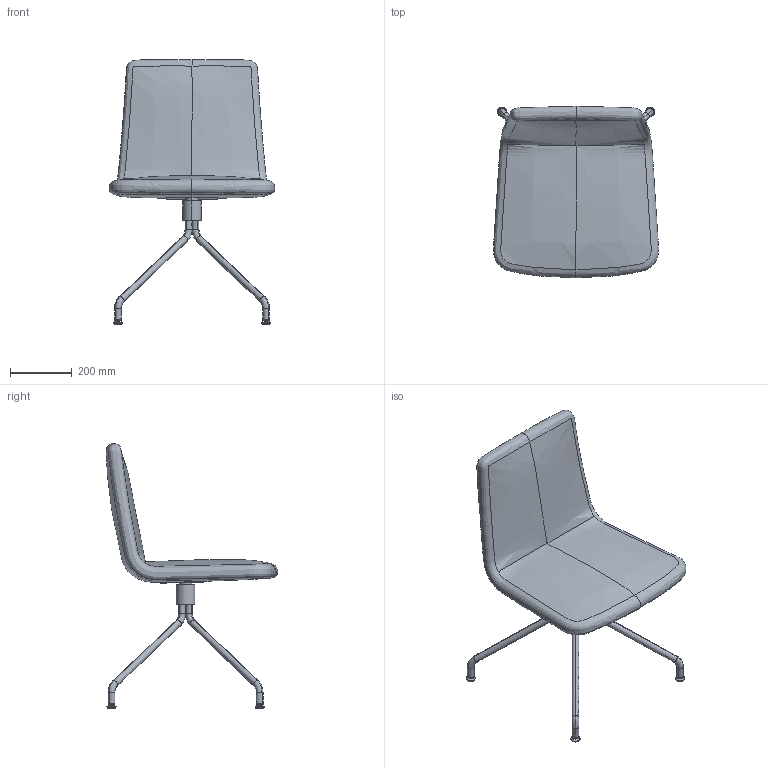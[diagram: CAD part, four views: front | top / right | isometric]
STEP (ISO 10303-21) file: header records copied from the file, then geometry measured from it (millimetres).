
FILE_DESCRIPTION(/* description */ (''),/* implementation_level */ '2;1');
FILE_NAME(/* name */ 'HADB47~1',/* time_stamp */ '2016-09-30T16:44:32+02:00',/* author */ (''),/* organization */ (''),/* preprocessor_version */ 'ST-DEVELOPER v15',/* originating_system */ '',/* authorisation */ '');
FILE_SCHEMA (('CONFIG_CONTROL_DESIGN'));
Length unit declared in the file: millimetre
Products named in the file (1): Document
Bounding box: 535.12 x 555.48 x 857.2 mm (x, y, z)
Volume: 24085572.1 mm3; surface area: 1120870.1 mm2
Topology: 2 solids, 19 shells, 108 faces, 232 edges, 141 vertices
Faces by surface type: bspline 92, plane 16
Entity records: 7797 total; most frequent: CARTESIAN_POINT 6476, ORIENTED_EDGE 408, EDGE_CURVE 229, VERTEX_POINT 135, EDGE_LOOP 109, ADVANCED_FACE 108, FACE_OUTER_BOUND 108, B_SPLINE_CURVE_WITH_KNOTS 28
